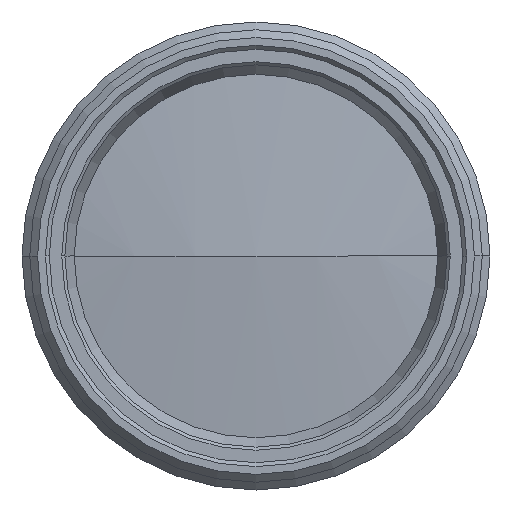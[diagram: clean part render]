
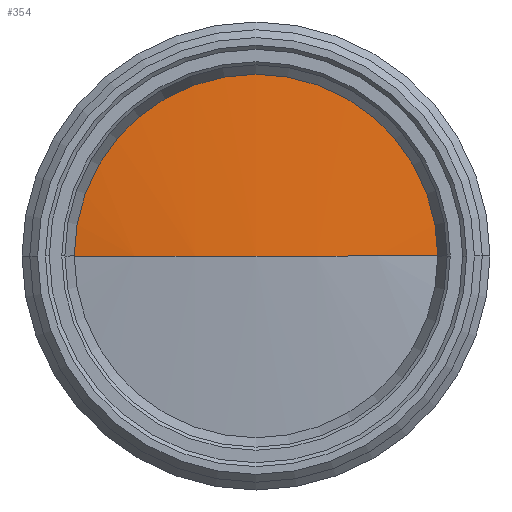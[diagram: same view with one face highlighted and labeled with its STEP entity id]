
A CAD part, left-side view. The second image highlights one B-rep face of the part: STEP entity #354.
In plain terms, the highlighted spherical face has radius 75.5 mm.
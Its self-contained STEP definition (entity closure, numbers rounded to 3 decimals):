
#2 = EDGE_LOOP ( 'NONE', ( #70, #59, #64 ) ) ;
#59 = ORIENTED_EDGE ( 'NONE', *, *, #117, .T. ) ;
#64 = ORIENTED_EDGE ( 'NONE', *, *, #110, .F. ) ;
#70 = ORIENTED_EDGE ( 'NONE', *, *, #119, .F. ) ;
#110 = EDGE_CURVE ( 'NONE', #969, #973, #1063, .T. ) ;
#117 = EDGE_CURVE ( 'NONE', #965, #973, #1073, .T. ) ;
#119 = EDGE_CURVE ( 'NONE', #965, #969, #1076, .T. ) ;
#354 = ADVANCED_FACE ( 'NONE', ( #1197 ), #1208, .T. ) ;
#808 = AXIS2_PLACEMENT_3D ( 'NONE', #1300, #1301, #1302 ) ;
#812 = AXIS2_PLACEMENT_3D ( 'NONE', #1318, #1319, #1320 ) ;
#813 = AXIS2_PLACEMENT_3D ( 'NONE', #1323, #1324, #1325 ) ;
#855 = AXIS2_PLACEMENT_3D ( 'NONE', #1519, #1517, #1522 ) ;
#965 = VERTEX_POINT ( 'NONE', #2190 ) ;
#969 = VERTEX_POINT ( 'NONE', #2194 ) ;
#973 = VERTEX_POINT ( 'NONE', #2198 ) ;
#1063 = CIRCLE ( 'NONE', #808, 11.65 ) ;
#1073 = CIRCLE ( 'NONE', #812, 75.5 ) ;
#1076 = CIRCLE ( 'NONE', #813, 75.5 ) ;
#1197 = FACE_OUTER_BOUND ( 'NONE', #2, .T. ) ;
#1208 = SPHERICAL_SURFACE ( 'NONE', #855, 75.5 ) ;
#1300 = CARTESIAN_POINT ( 'NONE',  ( -140.916, 0., 0. ) ) ;
#1301 = DIRECTION ( 'NONE',  ( 1., 0., 0. ) ) ;
#1302 = DIRECTION ( 'NONE',  ( 0., 1., 0. ) ) ;
#1318 = CARTESIAN_POINT ( 'NONE',  ( -66.32, 0., 0. ) ) ;
#1319 = DIRECTION ( 'NONE',  ( 0., 0., 1. ) ) ;
#1320 = DIRECTION ( 'NONE',  ( 0., -1., 0. ) ) ;
#1323 = CARTESIAN_POINT ( 'NONE',  ( -66.32, 0., 0. ) ) ;
#1324 = DIRECTION ( 'NONE',  ( 0., 0., -1. ) ) ;
#1325 = DIRECTION ( 'NONE',  ( -1., 0., 0. ) ) ;
#1517 = DIRECTION ( 'NONE',  ( 0., 0., 1. ) ) ;
#1519 = CARTESIAN_POINT ( 'NONE',  ( -66.32, 0., 0. ) ) ;
#1522 = DIRECTION ( 'NONE',  ( 0., 1., 0. ) ) ;
#2190 = CARTESIAN_POINT ( 'NONE',  ( -141.82, 0., 0. ) ) ;
#2194 = CARTESIAN_POINT ( 'NONE',  ( -140.916, 11.65, 0. ) ) ;
#2198 = CARTESIAN_POINT ( 'NONE',  ( -140.916, -11.65, 0. ) ) ;
